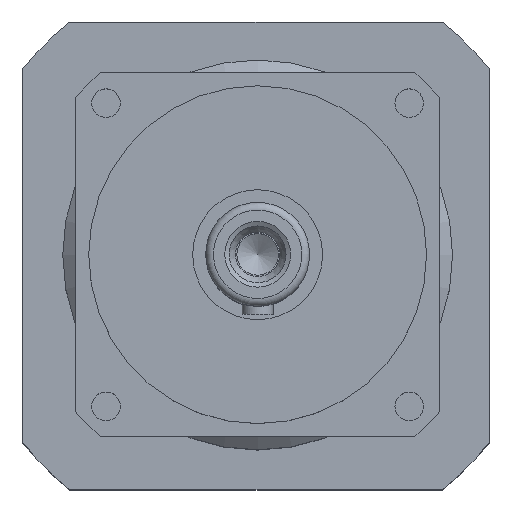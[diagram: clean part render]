
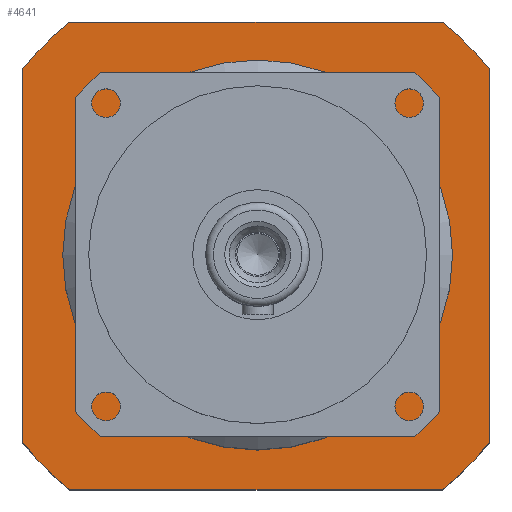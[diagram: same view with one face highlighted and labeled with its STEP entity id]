
A CAD part, top view. The second image highlights one B-rep face of the part: STEP entity #4641.
In plain terms, the highlighted planar face has unit normal (0, 0, 1) as drawn and (0, 0, -1) by its records, which use the part's own axes.
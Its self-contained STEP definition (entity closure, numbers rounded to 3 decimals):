
#725=LINE('',#13340,#1288);
#729=LINE('',#13354,#1292);
#733=LINE('',#13366,#1296);
#737=LINE('',#13380,#1300);
#1288=VECTOR('',#11138,1.);
#1292=VECTOR('',#11152,1.);
#1296=VECTOR('',#11164,1.);
#1300=VECTOR('',#11178,1.);
#4180=FACE_BOUND('',#5740,.T.);
#4181=FACE_BOUND('',#5741,.T.);
#4641=ADVANCED_FACE('',(#4180,#4181),#4962,.F.);
#4962=PLANE('',#10183);
#5740=EDGE_LOOP('',(#7195,#7196,#7197,#7198,#7199,#7200,#7201,#7202));
#5741=EDGE_LOOP('',(#7203));
#7195=ORIENTED_EDGE('',*,*,#8758,.T.);
#7196=ORIENTED_EDGE('',*,*,#8782,.T.);
#7197=ORIENTED_EDGE('',*,*,#8779,.T.);
#7198=ORIENTED_EDGE('',*,*,#8775,.T.);
#7199=ORIENTED_EDGE('',*,*,#8772,.T.);
#7200=ORIENTED_EDGE('',*,*,#8769,.T.);
#7201=ORIENTED_EDGE('',*,*,#8766,.T.);
#7202=ORIENTED_EDGE('',*,*,#8762,.T.);
#7203=ORIENTED_EDGE('',*,*,#9068,.T.);
#8033=VERTEX_POINT('',#13332);
#8034=VERTEX_POINT('',#13333);
#8037=VERTEX_POINT('',#13341);
#8040=VERTEX_POINT('',#13349);
#8042=VERTEX_POINT('',#13355);
#8044=VERTEX_POINT('',#13361);
#8046=VERTEX_POINT('',#13367);
#8049=VERTEX_POINT('',#13375);
#8241=VERTEX_POINT('',#13993);
#8758=EDGE_CURVE('',#8033,#8034,#9506,.T.);
#8762=EDGE_CURVE('',#8037,#8033,#725,.T.);
#8766=EDGE_CURVE('',#8040,#8037,#9509,.T.);
#8769=EDGE_CURVE('',#8042,#8040,#729,.T.);
#8772=EDGE_CURVE('',#8044,#8042,#9511,.T.);
#8775=EDGE_CURVE('',#8046,#8044,#733,.T.);
#8779=EDGE_CURVE('',#8049,#8046,#9514,.T.);
#8782=EDGE_CURVE('',#8034,#8049,#737,.T.);
#9068=EDGE_CURVE('',#8241,#8241,#9592,.T.);
#9506=CIRCLE('',#9956,115.);
#9509=CIRCLE('',#9961,115.);
#9511=CIRCLE('',#9965,115.);
#9514=CIRCLE('',#9970,115.);
#9592=CIRCLE('',#10181,62.5);
#9956=AXIS2_PLACEMENT_3D('',#13331,#11130,#11131);
#9961=AXIS2_PLACEMENT_3D('',#13348,#11145,#11146);
#9965=AXIS2_PLACEMENT_3D('',#13360,#11157,#11158);
#9970=AXIS2_PLACEMENT_3D('',#13374,#11171,#11172);
#10181=AXIS2_PLACEMENT_3D('',#13992,#11800,#11801);
#10183=AXIS2_PLACEMENT_3D('',#13995,#11804,#11805);
#11130=DIRECTION('',(0.,0.,-1.));
#11131=DIRECTION('',(1.,0.,0.));
#11138=DIRECTION('',(0.,1.,0.));
#11145=DIRECTION('',(0.,0.,-1.));
#11146=DIRECTION('',(1.,0.,0.));
#11152=DIRECTION('',(-1.,0.,0.));
#11157=DIRECTION('',(0.,0.,-1.));
#11158=DIRECTION('',(1.,0.,0.));
#11164=DIRECTION('',(0.,-1.,0.));
#11171=DIRECTION('',(0.,0.,-1.));
#11172=DIRECTION('',(1.,0.,0.));
#11178=DIRECTION('',(1.,0.,0.));
#11800=DIRECTION('',(0.,0.,1.));
#11801=DIRECTION('',(1.,0.,0.));
#11804=DIRECTION('',(0.,0.,1.));
#11805=DIRECTION('',(-1.,0.,0.));
#13331=CARTESIAN_POINT('',(0.,0.,-57.));
#13332=CARTESIAN_POINT('',(-90.,71.589,-57.));
#13333=CARTESIAN_POINT('',(-71.589,90.,-57.));
#13340=CARTESIAN_POINT('',(-90.,71.589,-57.));
#13341=CARTESIAN_POINT('',(-90.,-71.589,-57.));
#13348=CARTESIAN_POINT('',(0.,0.,-57.));
#13349=CARTESIAN_POINT('',(-71.589,-90.,-57.));
#13354=CARTESIAN_POINT('',(-71.589,-90.,-57.));
#13355=CARTESIAN_POINT('',(71.589,-90.,-57.));
#13360=CARTESIAN_POINT('',(0.,0.,-57.));
#13361=CARTESIAN_POINT('',(90.,-71.589,-57.));
#13366=CARTESIAN_POINT('',(90.,-71.589,-57.));
#13367=CARTESIAN_POINT('',(90.,71.589,-57.));
#13374=CARTESIAN_POINT('',(0.,0.,-57.));
#13375=CARTESIAN_POINT('',(71.589,90.,-57.));
#13380=CARTESIAN_POINT('',(71.589,90.,-57.));
#13992=CARTESIAN_POINT('',(0.,0.,-57.));
#13993=CARTESIAN_POINT('',(62.5,0.,-57.));
#13995=CARTESIAN_POINT('',(0.,0.,-57.));
